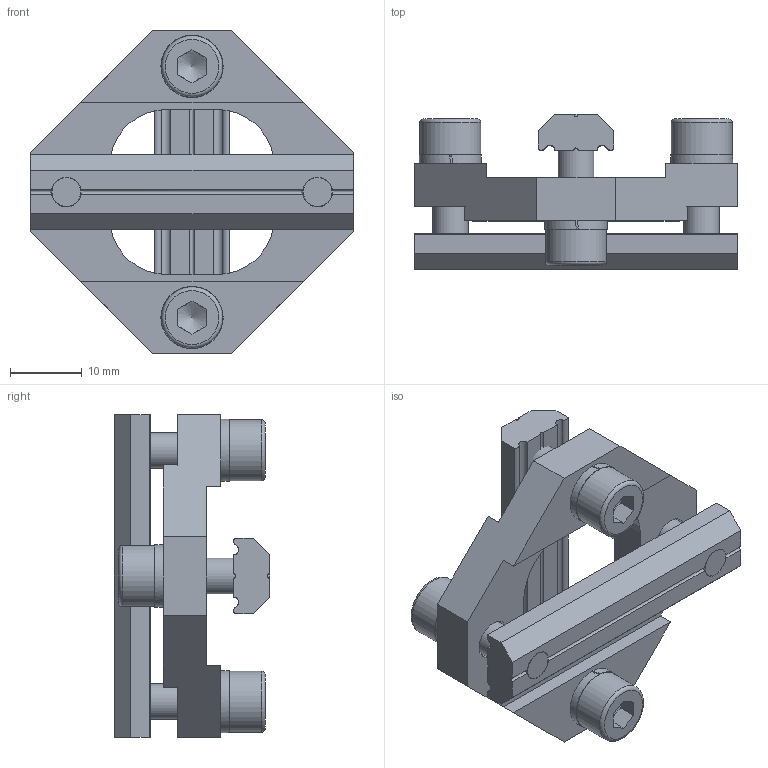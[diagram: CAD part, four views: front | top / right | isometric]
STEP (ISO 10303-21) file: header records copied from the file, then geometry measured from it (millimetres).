
FILE_DESCRIPTION(/* description */ ('Profile Cross Clamp'),/* implementation_level */ '2;1');
FILE_NAME(/* name */ 'PCC-25-25.STEP',/* time_stamp */ '2026-02-10T15:10:03-05:00',/* author */ ('Design2'),/* organization */ ('CCS Design LLC'),/* preprocessor_version */ 'ST-DEVELOPER v20',/* originating_system */ 'Autodesk Inventor 2025',/* authorisation */ '');
FILE_SCHEMA (('AUTOMOTIVE_DESIGN { 1 0 10303 214 3 1 1 }'));
Length unit declared in the file: inch
Products named in the file (5): PCC-25-25; M-PCC-25-25; ANSI B18.3.1M - M5x0.8 x 16; ASME B18.21.2M - 5; CN-5-35
Assembly tree (11 placements, depth 2):
  PCC-25-25
    M-PCC-25-25
    ANSI B18.3.1M - M5x0.8 x 16  x4
    ASME B18.21.2M - 5  x4
    CN-5-35  x2
Bounding box: 45 x 21.62 x 45 mm (x, y, z)
Volume: 11218 mm3; surface area: 9257.9 mm2
Topology: 11 solids, 11 shells, 158 faces, 420 edges, 280 vertices
Faces by surface type: plane 94, cylinder 48, torus 8, cone 8
Full cylindrical faces by diameter (mm): 4.14 x4, 5 x4, 5.512 x4, 8.5 x4
Entity records: 2744 total; most frequent: CARTESIAN_POINT 578, DIRECTION 426, ORIENTED_EDGE 406, EDGE_CURVE 203, AXIS2_PLACEMENT_3D 149, VERTEX_POINT 136, LINE 128, VECTOR 128
